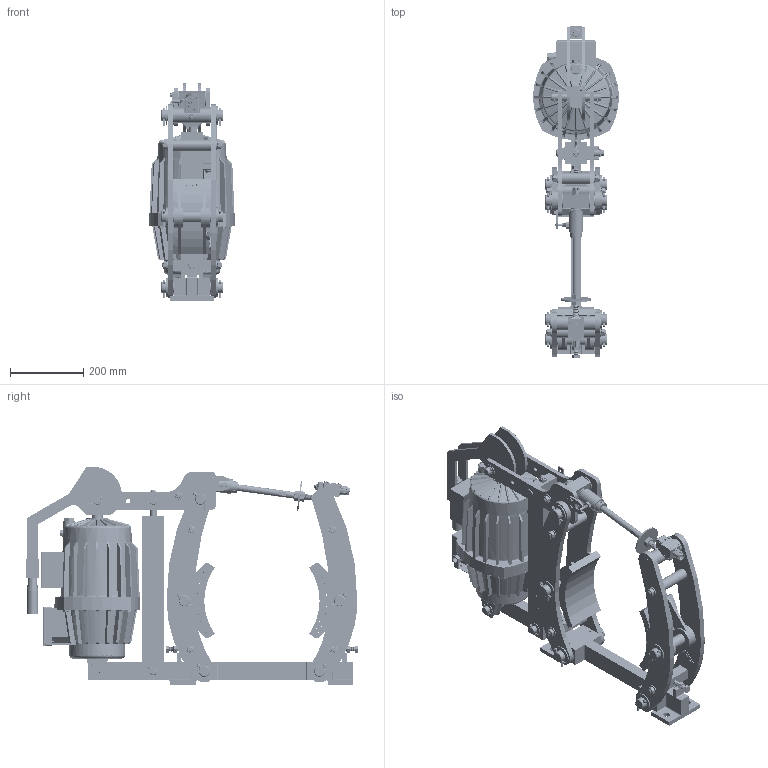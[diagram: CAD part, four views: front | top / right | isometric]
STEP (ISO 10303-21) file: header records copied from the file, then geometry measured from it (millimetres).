
FILE_DESCRIPTION((''),'2;1');
FILE_NAME('4459_314_554_E00002','2018-01-30T',('VORO'),(''),'CREO PARAMETRIC BY PTC INC, 2017170','CREO PARAMETRIC BY PTC INC, 2017170','');
FILE_SCHEMA(('CONFIG_CONTROL_DESIGN'));
Products named in the file (1): 4459_314_554_E00002
Bounding box: 234 x 906.74 x 595 mm (x, y, z)
Surface area: 2571564.9 mm2 (no closed solid volume)
Topology: 0 solids, 3401 shells, 4085 faces, 26259 edges, 24839 vertices
Faces by surface type: plane 1645, cylinder 1380, cone 833, torus 205, bspline 18, sphere 4
Entity records: 446217 total; most frequent: CARTESIAN_POINT 142610, PRESENTATION_STYLE_ASSIGNMENT 33728, STYLED_ITEM 29643, DIRECTION 28269, ORIENTED_EDGE 27647, CURVE_STYLE 26242, EDGE_CURVE 26242, VERTEX_POINT 24846
